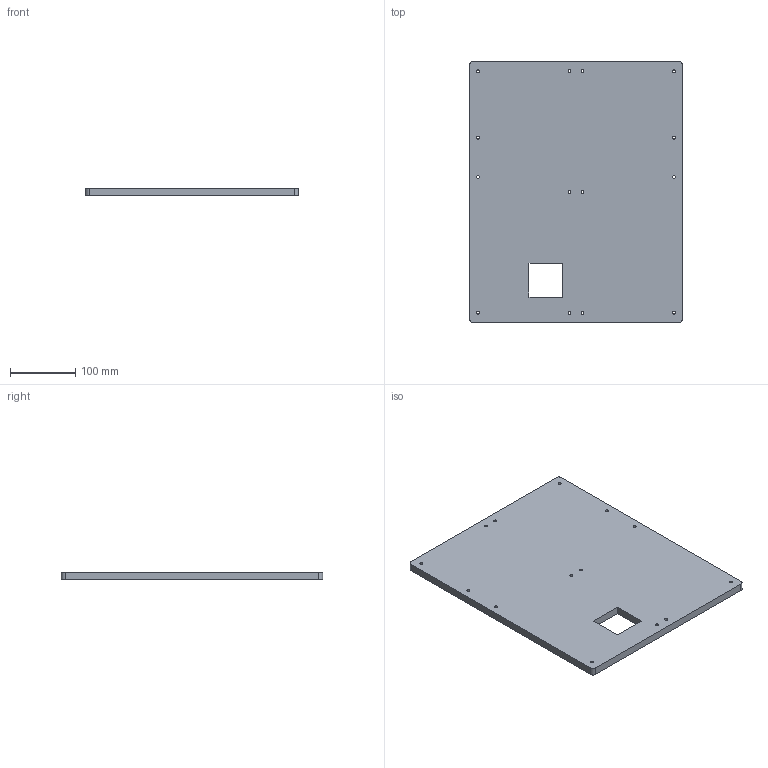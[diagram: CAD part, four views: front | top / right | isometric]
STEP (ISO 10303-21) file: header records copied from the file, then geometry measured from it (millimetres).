
FILE_DESCRIPTION(('Open CASCADE Model'),'2;1');
FILE_NAME('Open CASCADE Shape Model','2026-10-21T12:05:00',('Author'),( 'Open CASCADE'),'Open CASCADE STEP processor 7.9','Open CASCADE 7.9' ,'Unknown');
FILE_SCHEMA(('AUTOMOTIVE_DESIGN { 1 0 10303 214 1 1 1 1 }'));
Length unit declared in the file: millimetre
Products named in the file (1): Open CASCADE STEP translator 7.9 5
Bounding box: 326 x 400 x 12 mm (x, y, z)
Volume: 1529426.7 mm3; surface area: 277023.1 mm2
Topology: 1 solids, 1 shells, 28 faces, 78 edges, 52 vertices
Faces by surface type: cylinder 18, plane 10
Full cylindrical faces by diameter (mm): 4.4 x14
Entity records: 2082 total; most frequent: CARTESIAN_POINT 523, DIRECTION 280, ORIENTED_EDGE 156, PCURVE 156, DEFINITIONAL_REPRESENTATION 156, LINE 146, VECTOR 146, EDGE_CURVE 78
